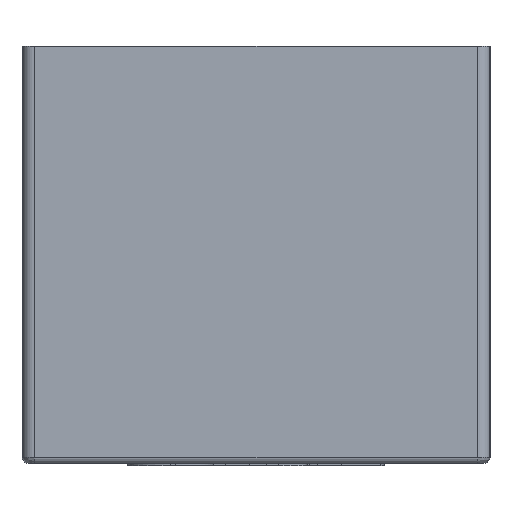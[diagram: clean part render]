
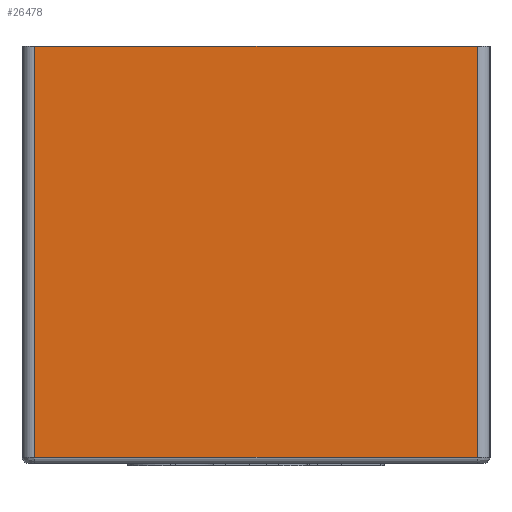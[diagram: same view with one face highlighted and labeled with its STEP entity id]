
A CAD part, front view. The second image highlights one B-rep face of the part: STEP entity #26478.
In plain terms, the highlighted planar face has unit normal (0, -1, 0).
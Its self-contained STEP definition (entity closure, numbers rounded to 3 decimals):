
#50 = VERTEX_POINT ( 'NONE', #43735 ) ;
#994 = ORIENTED_EDGE ( 'NONE', *, *, #14032, .F. ) ;
#2699 = LINE ( 'NONE', #19421, #50939 ) ;
#3924 = CARTESIAN_POINT ( 'NONE',  ( 17.5, -221., -21.5 ) ) ;
#7820 = PLANE ( 'NONE',  #57904 ) ;
#8731 = DIRECTION ( 'NONE',  ( 1., 0., 0. ) ) ;
#10806 = VECTOR ( 'NONE', #8731, 1000. ) ;
#11347 = CARTESIAN_POINT ( 'NONE',  ( 18.5, -221., -22. ) ) ;
#12841 = CARTESIAN_POINT ( 'NONE',  ( 0., -221., 11. ) ) ;
#14032 = EDGE_CURVE ( 'NONE', #35622, #30481, #2699, .T. ) ;
#16243 = DIRECTION ( 'NONE',  ( 0., 0., 1. ) ) ;
#17649 = EDGE_CURVE ( 'NONE', #54552, #50, #26877, .T. ) ;
#19421 = CARTESIAN_POINT ( 'NONE',  ( 0., -221., -21.5 ) ) ;
#23903 = DIRECTION ( 'NONE',  ( -1., 0., 0. ) ) ;
#24536 = EDGE_CURVE ( 'NONE', #30481, #54552, #31988, .T. ) ;
#26478 = ADVANCED_FACE ( 'NONE', ( #46561 ), #7820, .F. ) ;
#26782 = EDGE_LOOP ( 'NONE', ( #27081, #994, #49015, #37634 ) ) ;
#26877 = LINE ( 'NONE', #12841, #10806 ) ;
#27081 = ORIENTED_EDGE ( 'NONE', *, *, #24536, .F. ) ;
#30189 = DIRECTION ( 'NONE',  ( 0., 0., -1. ) ) ;
#30481 = VERTEX_POINT ( 'NONE', #54493 ) ;
#30828 = EDGE_CURVE ( 'NONE', #50, #35622, #41280, .T. ) ;
#31988 = LINE ( 'NONE', #49580, #47401 ) ;
#32130 = DIRECTION ( 'NONE',  ( 0., 0., 1. ) ) ;
#35622 = VERTEX_POINT ( 'NONE', #3924 ) ;
#37634 = ORIENTED_EDGE ( 'NONE', *, *, #17649, .F. ) ;
#41280 = LINE ( 'NONE', #52108, #56699 ) ;
#41512 = CARTESIAN_POINT ( 'NONE',  ( -17.5, -221., 11. ) ) ;
#42990 = DIRECTION ( 'NONE',  ( 0., 1., 0. ) ) ;
#43735 = CARTESIAN_POINT ( 'NONE',  ( 17.5, -221., 11. ) ) ;
#46561 = FACE_OUTER_BOUND ( 'NONE', #26782, .T. ) ;
#47401 = VECTOR ( 'NONE', #32130, 1000. ) ;
#49015 = ORIENTED_EDGE ( 'NONE', *, *, #30828, .F. ) ;
#49580 = CARTESIAN_POINT ( 'NONE',  ( -17.5, -221., -22. ) ) ;
#50939 = VECTOR ( 'NONE', #23903, 1000. ) ;
#52108 = CARTESIAN_POINT ( 'NONE',  ( 17.5, -221., -22. ) ) ;
#54493 = CARTESIAN_POINT ( 'NONE',  ( -17.5, -221., -21.5 ) ) ;
#54552 = VERTEX_POINT ( 'NONE', #41512 ) ;
#56699 = VECTOR ( 'NONE', #30189, 1000. ) ;
#57904 = AXIS2_PLACEMENT_3D ( 'NONE', #11347, #42990, #16243 ) ;
